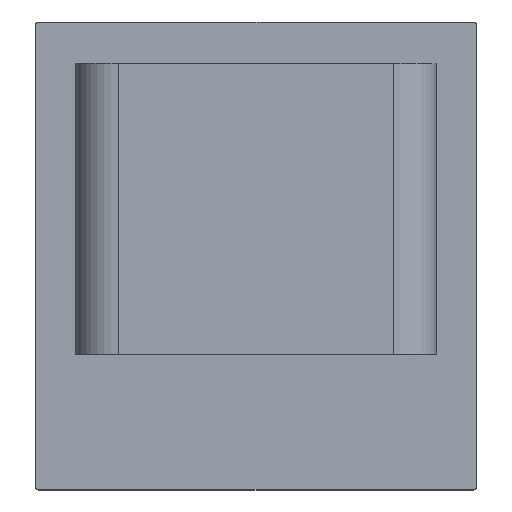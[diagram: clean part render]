
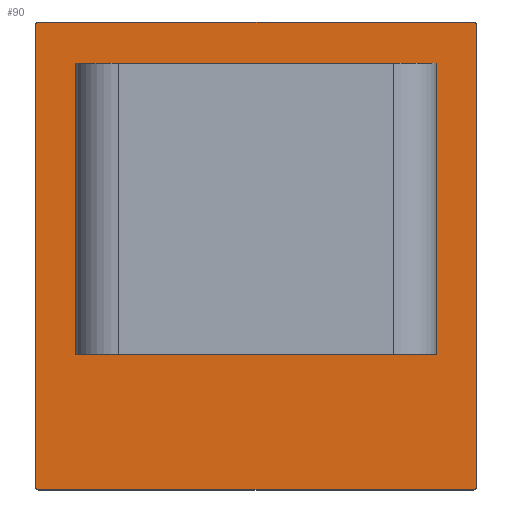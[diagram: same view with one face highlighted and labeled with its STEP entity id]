
A CAD part, top view. The second image highlights one B-rep face of the part: STEP entity #90.
In plain terms, the highlighted planar face has unit normal (0, 0, 1).
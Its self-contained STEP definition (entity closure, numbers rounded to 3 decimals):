
#6 = DIRECTION ( 'NONE',  ( -1., 0., 0. ) ) ;
#8 = VERTEX_POINT ( 'NONE', #1713 ) ;
#37 = CARTESIAN_POINT ( 'NONE',  ( 0., -16., 2.5 ) ) ;
#47 = EDGE_CURVE ( 'NONE', #2207, #1079, #148, .T. ) ;
#90 = ADVANCED_FACE ( 'NONE', ( #785, #1244 ), #1933, .T. ) ;
#101 = DIRECTION ( 'NONE',  ( 0., 0., 1. ) ) ;
#103 = DIRECTION ( 'NONE',  ( 0., 0., 1. ) ) ;
#110 = CARTESIAN_POINT ( 'NONE',  ( -160., -168., 2.5 ) ) ;
#140 = VECTOR ( 'NONE', #1613, 1000. ) ;
#148 = LINE ( 'NONE', #202, #1341 ) ;
#202 = CARTESIAN_POINT ( 'NONE',  ( -160., 170., 2.5 ) ) ;
#215 = AXIS2_PLACEMENT_3D ( 'NONE', #808, #101, #344 ) ;
#219 = VECTOR ( 'NONE', #2092, 1000. ) ;
#312 = CIRCLE ( 'NONE', #1017, 2. ) ;
#344 = DIRECTION ( 'NONE',  ( 0., -1., 0. ) ) ;
#397 = EDGE_CURVE ( 'NONE', #2051, #886, #2114, .T. ) ;
#400 = DIRECTION ( 'NONE',  ( 0., -1., 0. ) ) ;
#437 = EDGE_LOOP ( 'NONE', ( #1314, #2156, #2089, #1950, #472, #2047, #2571, #751 ) ) ;
#456 = DIRECTION ( 'NONE',  ( 0., -1., 0. ) ) ;
#472 = ORIENTED_EDGE ( 'NONE', *, *, #47, .T. ) ;
#473 = DIRECTION ( 'NONE',  ( 0., 0., 1. ) ) ;
#524 = DIRECTION ( 'NONE',  ( 0., -1., 0. ) ) ;
#541 = CARTESIAN_POINT ( 'NONE',  ( -160., -170., 2.5 ) ) ;
#612 = CARTESIAN_POINT ( 'NONE',  ( -160., 168., 2.5 ) ) ;
#615 = AXIS2_PLACEMENT_3D ( 'NONE', #1327, #473, #2638 ) ;
#662 = CARTESIAN_POINT ( 'NONE',  ( -158., 168., 2.5 ) ) ;
#663 = CARTESIAN_POINT ( 'NONE',  ( 0., 0., 2.5 ) ) ;
#751 = ORIENTED_EDGE ( 'NONE', *, *, #893, .T. ) ;
#754 = VERTEX_POINT ( 'NONE', #1489 ) ;
#776 = EDGE_CURVE ( 'NONE', #1787, #1279, #1258, .T. ) ;
#785 = FACE_BOUND ( 'NONE', #883, .T. ) ;
#808 = CARTESIAN_POINT ( 'NONE',  ( -158., -168., 2.5 ) ) ;
#828 = CARTESIAN_POINT ( 'NONE',  ( -160., 170., 2.5 ) ) ;
#868 = DIRECTION ( 'NONE',  ( 0., 1., 0. ) ) ;
#881 = DIRECTION ( 'NONE',  ( 0., -1., 0. ) ) ;
#883 = EDGE_LOOP ( 'NONE', ( #2199, #1092 ) ) ;
#886 = VERTEX_POINT ( 'NONE', #110 ) ;
#893 = EDGE_CURVE ( 'NONE', #886, #754, #2249, .T. ) ;
#1017 = AXIS2_PLACEMENT_3D ( 'NONE', #2279, #103, #400 ) ;
#1038 = EDGE_CURVE ( 'NONE', #1079, #2051, #2769, .T. ) ;
#1079 = VERTEX_POINT ( 'NONE', #1874 ) ;
#1092 = ORIENTED_EDGE ( 'NONE', *, *, #776, .F. ) ;
#1244 = FACE_OUTER_BOUND ( 'NONE', #437, .T. ) ;
#1258 = CIRCLE ( 'NONE', #615, 51. ) ;
#1279 = VERTEX_POINT ( 'NONE', #37 ) ;
#1314 = ORIENTED_EDGE ( 'NONE', *, *, #2566, .T. ) ;
#1327 = CARTESIAN_POINT ( 'NONE',  ( 0., 35., 2.5 ) ) ;
#1341 = VECTOR ( 'NONE', #6, 1000. ) ;
#1374 = CIRCLE ( 'NONE', #1483, 51. ) ;
#1483 = AXIS2_PLACEMENT_3D ( 'NONE', #2016, #2246, #524 ) ;
#1489 = CARTESIAN_POINT ( 'NONE',  ( -158., -170., 2.5 ) ) ;
#1494 = EDGE_CURVE ( 'NONE', #2261, #2709, #312, .T. ) ;
#1509 = CARTESIAN_POINT ( 'NONE',  ( 160., 170., 2.5 ) ) ;
#1525 = CARTESIAN_POINT ( 'NONE',  ( 158., 168., 2.5 ) ) ;
#1572 = LINE ( 'NONE', #541, #140 ) ;
#1577 = CARTESIAN_POINT ( 'NONE',  ( 0., 86., 2.5 ) ) ;
#1613 = DIRECTION ( 'NONE',  ( 1., 0., 0. ) ) ;
#1624 = EDGE_CURVE ( 'NONE', #2709, #8, #2660, .T. ) ;
#1696 = CARTESIAN_POINT ( 'NONE',  ( 158., -170., 2.5 ) ) ;
#1713 = CARTESIAN_POINT ( 'NONE',  ( 160., 168., 2.5 ) ) ;
#1757 = DIRECTION ( 'NONE',  ( 0., 0., 1. ) ) ;
#1778 = EDGE_CURVE ( 'NONE', #1279, #1787, #1374, .T. ) ;
#1787 = VERTEX_POINT ( 'NONE', #1577 ) ;
#1843 = AXIS2_PLACEMENT_3D ( 'NONE', #663, #2617, #2379 ) ;
#1874 = CARTESIAN_POINT ( 'NONE',  ( -158., 170., 2.5 ) ) ;
#1931 = DIRECTION ( 'NONE',  ( 0., 0., 1. ) ) ;
#1933 = PLANE ( 'NONE',  #1843 ) ;
#1950 = ORIENTED_EDGE ( 'NONE', *, *, #2359, .T. ) ;
#2016 = CARTESIAN_POINT ( 'NONE',  ( 0., 35., 2.5 ) ) ;
#2047 = ORIENTED_EDGE ( 'NONE', *, *, #1038, .T. ) ;
#2051 = VERTEX_POINT ( 'NONE', #612 ) ;
#2058 = VECTOR ( 'NONE', #868, 1000. ) ;
#2089 = ORIENTED_EDGE ( 'NONE', *, *, #1624, .T. ) ;
#2092 = DIRECTION ( 'NONE',  ( 0., -1., 0. ) ) ;
#2114 = LINE ( 'NONE', #828, #219 ) ;
#2156 = ORIENTED_EDGE ( 'NONE', *, *, #1494, .T. ) ;
#2199 = ORIENTED_EDGE ( 'NONE', *, *, #1778, .F. ) ;
#2207 = VERTEX_POINT ( 'NONE', #2373 ) ;
#2246 = DIRECTION ( 'NONE',  ( 0., 0., 1. ) ) ;
#2249 = CIRCLE ( 'NONE', #215, 2. ) ;
#2261 = VERTEX_POINT ( 'NONE', #1696 ) ;
#2279 = CARTESIAN_POINT ( 'NONE',  ( 158., -168., 2.5 ) ) ;
#2359 = EDGE_CURVE ( 'NONE', #8, #2207, #2809, .T. ) ;
#2373 = CARTESIAN_POINT ( 'NONE',  ( 158., 170., 2.5 ) ) ;
#2379 = DIRECTION ( 'NONE',  ( 0., -1., 0. ) ) ;
#2566 = EDGE_CURVE ( 'NONE', #754, #2261, #1572, .T. ) ;
#2571 = ORIENTED_EDGE ( 'NONE', *, *, #397, .T. ) ;
#2576 = CARTESIAN_POINT ( 'NONE',  ( 160., -168., 2.5 ) ) ;
#2617 = DIRECTION ( 'NONE',  ( 0., 0., 1. ) ) ;
#2638 = DIRECTION ( 'NONE',  ( 0., -1., 0. ) ) ;
#2648 = AXIS2_PLACEMENT_3D ( 'NONE', #1525, #1757, #456 ) ;
#2660 = LINE ( 'NONE', #1509, #2058 ) ;
#2667 = AXIS2_PLACEMENT_3D ( 'NONE', #662, #1931, #881 ) ;
#2709 = VERTEX_POINT ( 'NONE', #2576 ) ;
#2769 = CIRCLE ( 'NONE', #2667, 2. ) ;
#2809 = CIRCLE ( 'NONE', #2648, 2. ) ;
